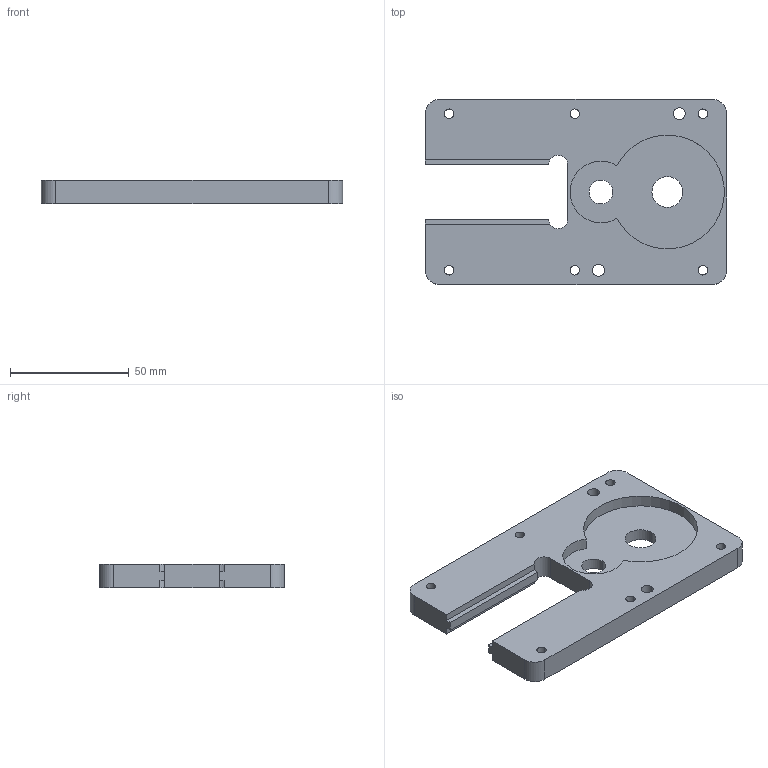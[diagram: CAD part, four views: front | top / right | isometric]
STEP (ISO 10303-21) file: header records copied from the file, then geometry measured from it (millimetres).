
FILE_DESCRIPTION( ('This file contains a STEP AP42 implementation' ,'as created by ZW3D STEP Interface translator.') ,'2;1' );
FILE_NAME( 'zkj-假蚾啣.stp' ,'23 9 3.214429', (''), ('ZWCAD Software Co.'), 'Version 1.0', 'ZW3D to STEP translator', '' );
FILE_SCHEMA(('AUTOMOTIVE_DESIGN { 1 0 10303 214 1 1 1 1 }'));
Length unit declared in the file: millimetre
Products named in the file (2): 0; zkj-假蚾啣
Bounding box: 127 x 78 x 10 mm (x, y, z)
Volume: 69988.7 mm3; surface area: 23826.1 mm2
Topology: 1 solids, 1 shells, 47 faces, 132 edges, 88 vertices
Faces by surface type: cylinder 28, plane 19
Entity records: 1663 total; most frequent: DIRECTION 288, CARTESIAN_POINT 268, ORIENTED_EDGE 264, EDGE_CURVE 132, AXIS2_PLACEMENT_3D 108, VERTEX_POINT 88, VECTOR 72, LINE 72
